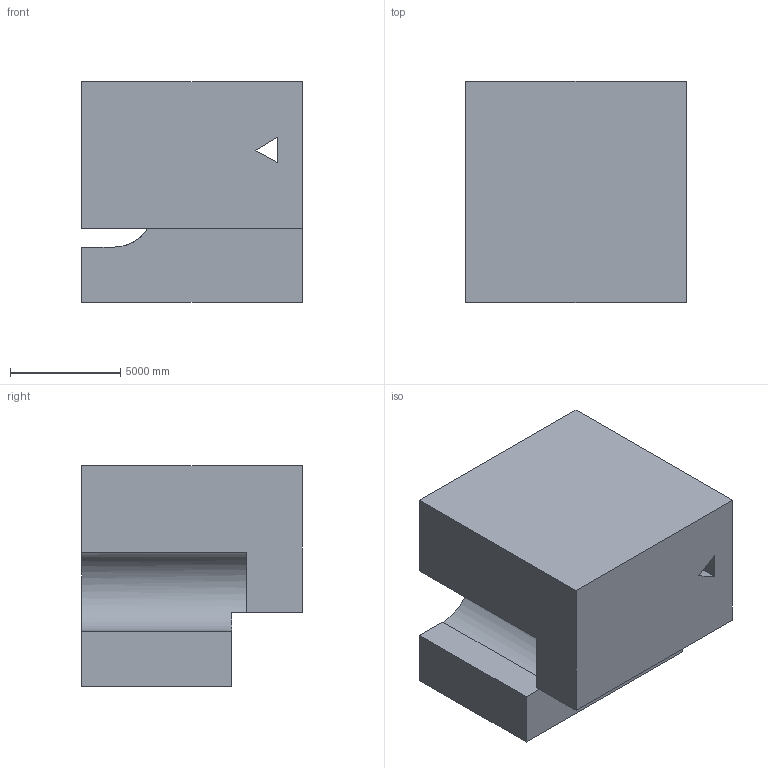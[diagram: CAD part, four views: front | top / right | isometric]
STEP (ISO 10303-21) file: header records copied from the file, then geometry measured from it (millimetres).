
FILE_DESCRIPTION (( 'STEP AP203' ), '1' );
FILE_NAME ('291.STEP', '2022-07-28T14:13:45', ( 'user' ), ( '' ), 'SwSTEP 2.0', 'SolidWorks 2021', '' );
FILE_SCHEMA (( 'CONFIG_CONTROL_DESIGN' ));
Length unit declared in the file: centimetre
Products named in the file (1): 291
Bounding box: 10000 x 10000 x 10000 mm (x, y, z)
Volume: 811407937017.9 mm3; surface area: 641675781.2 mm2
Topology: 1 solids, 1 shells, 16 faces, 42 edges, 28 vertices
Faces by surface type: plane 15, cylinder 1
Entity records: 570 total; most frequent: CARTESIAN_POINT 87, ORIENTED_EDGE 84, DIRECTION 79, EDGE_CURVE 42, LINE 39, VECTOR 39, VERTEX_POINT 28, AXIS2_PLACEMENT_3D 20
